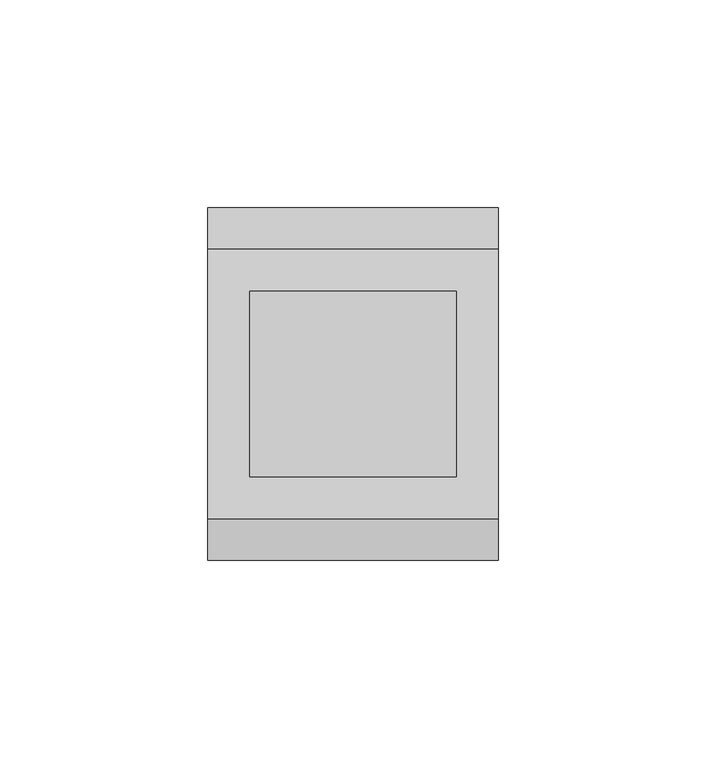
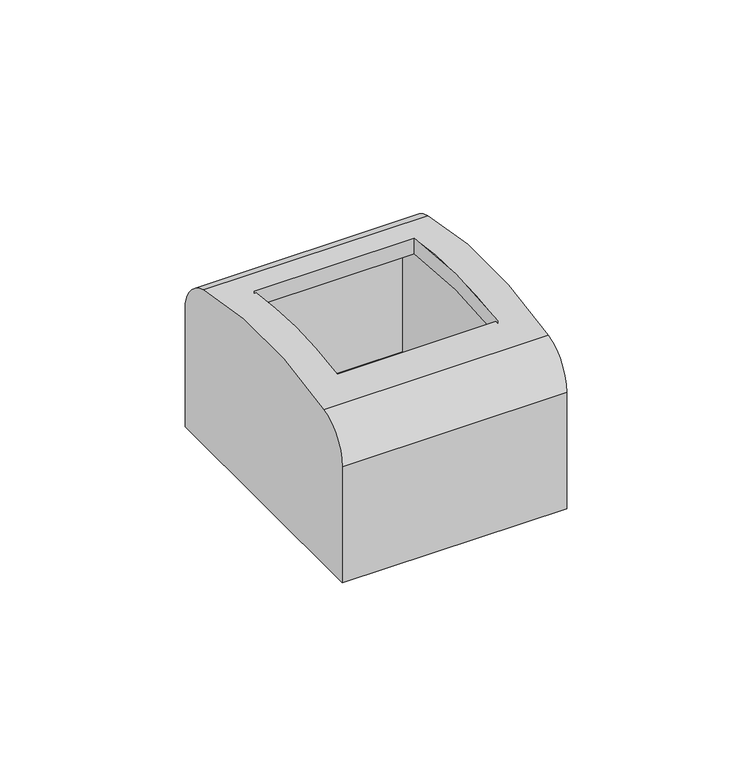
"""IFC4 building model written with IfcOpenShell, lengths in millimetres: cable carrier fitting geometry, КНС_МодульнаяНастеннаяКоробка_DKC : IP40, 2мод.."""

from ifc_helpers import new_model, si_unit, frame, origin, place, context, project, spatial, polyline, circle_curve, source, transform, mapped, element, save
from ifc_brep_helpers import plane_surface, cylinder_surface, revolved_surface, advanced_brep


def cable_carrier_fitting_fc76e14e(model_context):
    return source(origin(), model_context, "Body", "AdvancedBrep", [
        advanced_brep(
        [(35.0, 42.5, 0.0), (35.0, 42.5, 38.4), (35.0, 32.5785942, 51.1564497), (35.0, -32.5785942, 51.1564497), (35.0, -42.5, 38.4), (35.0, -42.5, 0.0), (-35.0, 42.5, 0.0), (-35.0, -42.5, 0.0), (-35.0, -42.5, 38.4), (-35.0, -32.5785942, 51.1564497), (-35.0, 32.5785942, 51.1564497), (-35.0, 42.5, 38.4), (-25.0, -22.5, 53.3024569), (25.0, -22.5, 53.3024569), (25.0, -22.5, 48.2064495), (-25.0, -22.5, 48.2064495), (25.0, 22.5, 53.3024569), (25.0, 22.5, 48.2064495), (25.0, 0.0, 49.9994992), (-25.0, 22.5, 53.3024569), (-25.0, 22.5, 48.2064495), (-25.0, 0.0, 49.9994992), (30.0, -31.3476937, 46.3103292), (30.0, 0.0, 49.9994992), (30.0, 31.3476937, 46.3103292), (30.0, 37.5, 38.4), (30.0, 37.5, 5.0), (30.0, -37.5, 5.0), (30.0, -37.5, 38.4), (-30.0, -31.3476937, 46.3103292), (-30.0, -37.5, 38.4), (-30.0, -37.5, 5.0), (-30.0, 37.5, 5.0), (-30.0, 37.5, 38.4), (-30.0, 31.3476937, 46.3103292), (-30.0, 0.0, 49.9994992)],
        [
            (0, 1),
            (1, 2, circle_curve(frame((35.0, 29.3384931, 38.4), z_axis=(1.0, 0.0, 0.0), x_axis=(0.0, 1.0, 0.0)), 13.1615069)),
            (2, 3, circle_curve(frame((35.0, 0.0, -77.1072021), z_axis=(1.0, 0.0, 0.0), x_axis=(0.0, 1.0, 0.0)), 132.3364242)),
            (3, 4, circle_curve(frame((35.0, -29.3384931, 38.4), z_axis=(1.0, 0.0, 0.0), x_axis=(0.0, 1.0, 0.0)), 13.1615069)),
            (4, 5),
            (5, 0),
            (6, 7),
            (7, 8),
            (8, 9, circle_curve(frame((-35.0, -29.3384931, 38.4), z_axis=(-1.0, 0.0, 0.0), x_axis=(0.0, 1.0, 0.0)), 13.1615069)),
            (9, 10, circle_curve(frame((-35.0, 0.0, -77.1072021), z_axis=(-1.0, 0.0, 0.0), x_axis=(0.0, 1.0, 0.0)), 132.3364242)),
            (10, 11, circle_curve(frame((-35.0, 29.3384931, 38.4), z_axis=(-1.0, 0.0, 0.0), x_axis=(0.0, 1.0, 0.0)), 13.1615069)),
            (11, 6),
            (0, 6),
            (11, 1),
            (10, 2),
            (3, 9),
            (8, 4),
            (7, 5),
            (12, 13),
            (13, 14),
            (14, 15),
            (15, 12),
            (13, 16, circle_curve(frame((25.0, 0.0, -77.1072021), z_axis=(-1.0, 0.0, 0.0), x_axis=(0.0, 1.0, 0.0)), 132.3364242)),
            (16, 17),
            (17, 18, circle_curve(frame((25.0, 1.7372224, -70.2676652), z_axis=(1.0, 0.0, 0.0), x_axis=(0.0, 1.0, 0.0)), 120.2797106)),
            (18, 14, circle_curve(frame((25.0, -1.7372224, -70.2676652), z_axis=(1.0, 0.0, 0.0), x_axis=(0.0, 1.0, 0.0)), 120.2797106)),
            (16, 19),
            (19, 20),
            (20, 17),
            (19, 12, circle_curve(frame((-25.0, 0.0, -77.1072021), z_axis=(1.0, 0.0, 0.0), x_axis=(0.0, 1.0, 0.0)), 132.3364242)),
            (15, 21, circle_curve(frame((-25.0, -1.7372224, -70.2676652), z_axis=(-1.0, 0.0, 0.0), x_axis=(0.0, 1.0, 0.0)), 120.2797106)),
            (21, 20, circle_curve(frame((-25.0, 1.7372224, -70.2676652), z_axis=(-1.0, 0.0, 0.0), x_axis=(0.0, 1.0, 0.0)), 120.2797106)),
            (22, 23, circle_curve(frame((30.0, -1.7372224, -70.2676652), z_axis=(-1.0, 0.0, 0.0), x_axis=(0.0, 1.0, 0.0)), 120.2797106)),
            (23, 24, circle_curve(frame((30.0, 1.7372224, -70.2676652), z_axis=(-1.0, 0.0, 0.0), x_axis=(0.0, 1.0, 0.0)), 120.2797106)),
            (24, 25, circle_curve(frame((30.0, 29.3384931, 38.4), z_axis=(-1.0, 0.0, 0.0), x_axis=(0.0, 1.0, 0.0)), 8.1615069)),
            (25, 26),
            (26, 27),
            (27, 28),
            (28, 22, circle_curve(frame((30.0, -29.3384931, 38.4), z_axis=(-1.0, 0.0, 0.0), x_axis=(0.0, 1.0, 0.0)), 8.1615069)),
            (29, 30, circle_curve(frame((-30.0, -29.3384931, 38.4), z_axis=(1.0, 0.0, 0.0), x_axis=(0.0, 1.0, 0.0)), 8.1615069)),
            (30, 31),
            (31, 32),
            (32, 33),
            (33, 34, circle_curve(frame((-30.0, 29.3384931, 38.4), z_axis=(1.0, 0.0, 0.0), x_axis=(0.0, 1.0, 0.0)), 8.1615069)),
            (34, 35, circle_curve(frame((-30.0, 1.7372224, -70.2676652), z_axis=(1.0, 0.0, 0.0), x_axis=(0.0, 1.0, 0.0)), 120.2797106)),
            (35, 29, circle_curve(frame((-30.0, -1.7372224, -70.2676652), z_axis=(1.0, 0.0, 0.0), x_axis=(0.0, 1.0, 0.0)), 120.2797106)),
            (28, 30),
            (29, 22),
            (27, 31),
            (26, 32),
            (25, 33),
            (24, 34),
            (23, 18),
            (21, 35),
        ],
        [
            plane_surface(frame((35.0, 42.5, 38.4), z_axis=(1.0, 0.0, 0.0), x_axis=(0.0, 0.0, 1.0))),
            plane_surface(frame((-35.0, 42.5, 38.4), z_axis=(-1.0, 0.0, 0.0), x_axis=(0.0, 0.0, -1.0))),
            plane_surface(frame((35.0, 42.5, 0.0), z_axis=(0.0, 1.0, 0.0), x_axis=(-1.0, 0.0, 0.0))),
            cylinder_surface(frame((-35.0, 29.3384931, 38.4), z_axis=(1.0, 0.0, 0.0), x_axis=(0.0, 1.0, 0.0)), 13.1615069),
            cylinder_surface(frame((-35.0, -29.3384931, 38.4), z_axis=(1.0, 0.0, 0.0), x_axis=(0.0, 1.0, 0.0)), 13.1615069),
            plane_surface(frame((35.0, -42.5, 38.4), z_axis=(0.0, -1.0, 0.0), x_axis=(-1.0, 0.0, 0.0))),
            plane_surface(frame((35.0, -42.5, 0.0), z_axis=(0.0, 0.0, -1.0), x_axis=(-1.0, 0.0, 0.0))),
            plane_surface(frame((-25.0, -22.5, 64.2929878), z_axis=(0.0, 1.0, 0.0), x_axis=(0.0, 0.0, -1.0))),
            plane_surface(frame((25.0, -22.5, 64.2929878), z_axis=(-1.0, 0.0, 0.0), x_axis=(0.0, 0.0, -1.0))),
            plane_surface(frame((25.0, 22.5, 64.2929878), z_axis=(0.0, -1.0, 0.0), x_axis=(0.0, 0.0, -1.0))),
            plane_surface(frame((-25.0, 22.5, 64.2929878), z_axis=(1.0, 0.0, 0.0), x_axis=(0.0, 0.0, -1.0))),
            plane_surface(frame((30.0, -21.1769862, 38.4), z_axis=(-1.0, 0.0, 0.0), x_axis=(0.0, 0.0, 1.0))),
            plane_surface(frame((-30.0, -21.1769862, 38.4), z_axis=(1.0, 0.0, 0.0), x_axis=(0.0, 0.0, -1.0))),
            revolved_surface(polyline([(30.0, -21.1769862, 38.4), (-30.0, -21.1769862, 38.4)]), (-30.0, -29.3384931, 38.4), (1.0, 0.0, 0.0)),
            plane_surface(frame((30.0, -37.5, 38.4), z_axis=(0.0, 1.0, 0.0), x_axis=(-1.0, 0.0, 0.0))),
            plane_surface(frame((30.0, -37.5, 5.0), z_axis=(0.0, 0.0, 1.0), x_axis=(-1.0, 0.0, 0.0))),
            plane_surface(frame((30.0, 37.5, 5.0), z_axis=(0.0, -1.0, 0.0), x_axis=(-1.0, 0.0, 0.0))),
            revolved_surface(polyline([(30.0, 37.5, 38.4), (-30.0, 37.5, 38.4)]), (-30.0, 29.3384931, 38.4), (1.0, 0.0, 0.0)),
            revolved_surface(polyline([(30.0, 122.016933, -70.2676652), (-30.0, 122.016933, -70.2676652)]), (-30.0, 1.7372224, -70.2676652), (1.0, 0.0, 0.0)),
            revolved_surface(polyline([(30.0, 118.54248820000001, -70.2676652), (-30.0, 118.54248820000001, -70.2676652)]), (-30.0, -1.7372224, -70.2676652), (1.0, 0.0, 0.0)),
            cylinder_surface(frame((-35.0, 0.0, -77.1072021), z_axis=(1.0, 0.0, 0.0), x_axis=(0.0, 1.0, 0.0)), 132.3364242),
        ],
        [
            (0, [[1, 2, 3, 4, 5, 6]]),
            (1, [[7, 8, 9, 10, 11, 12]]),
            (2, [[-1, 13, -12, 14]]),
            (3, [[-2, -14, -11, 15]]),
            (4, [[-4, 16, -9, 17]]),
            (5, [[-5, -17, -8, 18]]),
            (6, [[-6, -18, -7, -13]]),
            (7, [[19, 20, 21, 22]]),
            (8, [[23, 24, 25, 26, -20]]),
            (9, [[27, 28, 29, -24]]),
            (10, [[30, -22, 31, 32, -28]]),
            (11, [[33, 34, 35, 36, 37, 38, 39]]),
            (12, [[40, 41, 42, 43, 44, 45, 46]]),
            (13, [[-39, 47, -40, 48]]),
            (14, [[-38, 49, -41, -47]]),
            (15, [[-37, 50, -42, -49]]),
            (16, [[-36, 51, -43, -50]]),
            (17, [[-35, 52, -44, -51]]),
            (18, [[-34, 53, -25, -29, -32, 54, -45, -52]]),
            (19, [[-33, -48, -46, -54, -31, -21, -26, -53]]),
            (20, [[-3, -15, -10, -16], [-19, -30, -27, -23]]),
        ],
    ),
    ])


if __name__ == "__main__":
    model = new_model("IFC4")
    model_context = context("Model", 3, world=origin())
    ifc_project = project(units=[si_unit("LENGTHUNIT", "METRE", prefix="MILLI")], contexts=[model_context])
    site = spatial("IfcSite", under=ifc_project)
    building = spatial("IfcBuilding", under=site)
    placement = place(None, origin())
    cable_carrier_fitting_shape = cable_carrier_fitting_fc76e14e(model_context)
    element("IfcCableCarrierFitting", 1, ObjectType="КНС_МодульнаяНастеннаяКоробка_DKC : IP40, 2мод.", at=placement, inside=building, context=model_context, shape_type="MappedRepresentation", body=[
        mapped(cable_carrier_fitting_shape, transform((0.0, 0.0, 0.0), x_axis=(1.0, 0.0, 0.0), y_axis=(0.0, 1.0, 0.0), z_axis=(0.0, 0.0, 1.0))),
    ])
    save(model, "model.ifc")
